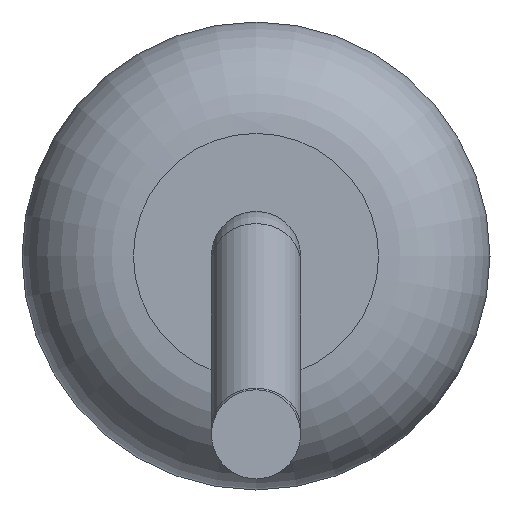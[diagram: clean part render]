
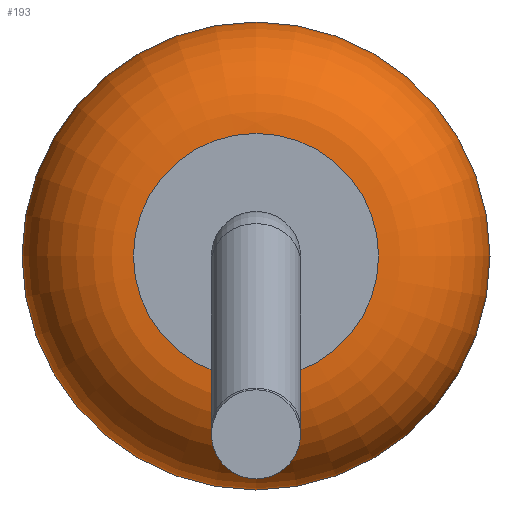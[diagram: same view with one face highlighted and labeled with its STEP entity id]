
A CAD part, left-side view. The second image highlights one B-rep face of the part: STEP entity #193.
In plain terms, the highlighted toroidal (fillet/blend) face has major radius 1.1 mm and minor radius 1 mm.
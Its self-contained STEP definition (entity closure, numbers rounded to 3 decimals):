
#193=ADVANCED_FACE('',(#398,#400),#402,.T.);
#398=FACE_OUTER_BOUND('',#399,.T.);
#399=EDGE_LOOP('',(#497));
#400=FACE_OUTER_BOUND('',#401,.T.);
#401=EDGE_LOOP('',(#498));
#402=TOROIDAL_SURFACE('',#403,1.1,1.);
#403=AXIS2_PLACEMENT_3D('',#404,#405,#406);
#404=CARTESIAN_POINT('',(-4.4,0.,0.));
#405=DIRECTION('',(-1.,0.,0.));
#406=DIRECTION('',(0.,0.,1.));
#497=ORIENTED_EDGE('',*,*,#526,.T.);
#498=ORIENTED_EDGE('',*,*,#527,.F.);
#526=EDGE_CURVE('',#562,#562,#563,.T.);
#527=EDGE_CURVE('',#564,#564,#565,.T.);
#562=VERTEX_POINT('',#648);
#563=CIRCLE('',#649,2.1);
#564=VERTEX_POINT('',#653);
#565=CIRCLE('',#654,1.1);
#648=CARTESIAN_POINT('',(-4.4,0.,2.1));
#649=AXIS2_PLACEMENT_3D('',#650,#651,#652);
#650=CARTESIAN_POINT('',(-4.4,0.,0.));
#651=DIRECTION('',(-1.,0.,0.));
#652=DIRECTION('',(0.,0.,1.));
#653=CARTESIAN_POINT('',(-5.4,0.,1.1));
#654=AXIS2_PLACEMENT_3D('',#655,#656,#657);
#655=CARTESIAN_POINT('',(-5.4,0.,0.));
#656=DIRECTION('',(-1.,0.,0.));
#657=DIRECTION('',(0.,0.,1.));
